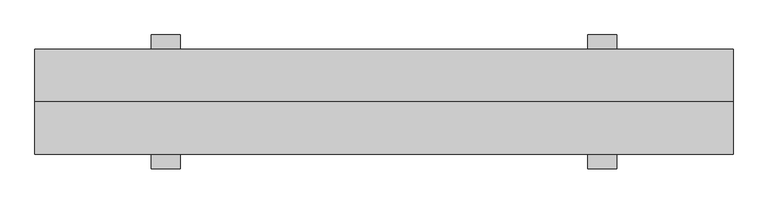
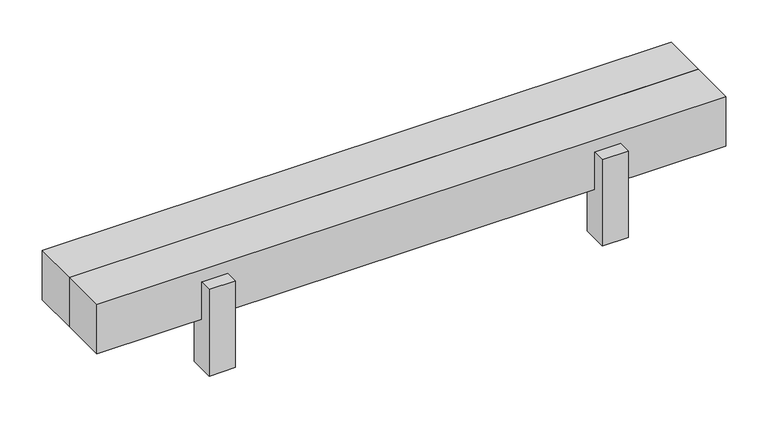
"""IFC4 building model written with IfcOpenShell, lengths in millimetres: proxy geometry, 枕木椅 : 枕木椅."""

from ifc_helpers import new_model, si_unit, frame, origin, origin_with_axes, place, context, project, spatial, polyline, outline, extrude, source, transform, mapped, element, save


def generic_models_32a9213d(model_context):
    return source(origin(), model_context, "Body", "SweptSolid", [
        extrude(outline(polyline([(-706.6315044, 228.0568475), (-706.6315044, 128.0568475), (-806.6315044, 128.0568475), (-806.6315044, 228.0568475), (-706.6315044, 228.0568475)])), origin_with_axes(), (0.0, 0.0, 1.0), 350.0),
        extrude(outline(polyline([(-706.6315044, 488.0568475), (-806.6315044, 488.0568475), (-806.6315044, 588.0568475), (-706.6315044, 588.0568475), (-706.6315044, 488.0568475)])), origin_with_axes(), (0.0, 0.0, 1.0), 350.0),
        extrude(outline(polyline([(793.3684956, 488.0568475), (693.3684956, 488.0568475), (693.3684956, 588.0568475), (793.3684956, 588.0568475), (793.3684956, 488.0568475)])), origin_with_axes(), (0.0, 0.0, 1.0), 350.0),
        extrude(outline(polyline([(793.3684956, 228.0568475), (793.3684956, 128.0568475), (693.3684956, 128.0568475), (693.3684956, 228.0568475), (793.3684956, 228.0568475)])), origin_with_axes(), (0.0, 0.0, 1.0), 350.0),
        extrude(outline(polyline([(1193.3684956, 358.0568475), (1193.3684956, 178.0568475), (-1206.6315044, 178.0568475), (-1206.6315044, 358.0568475), (1193.3684956, 358.0568475)])), frame((0.0, 0.0, 200.0), z_axis=(0.0, 0.0, 1.0), x_axis=(1.0, 0.0, 0.0)), (0.0, 0.0, 1.0), 200.0),
        extrude(outline(polyline([(1193.3684956, 538.0568475), (1193.3684956, 358.0568475), (-1206.6315044, 358.0568475), (-1206.6315044, 538.0568475), (1193.3684956, 538.0568475)])), frame((0.0, 0.0, 200.0), z_axis=(0.0, 0.0, 1.0), x_axis=(1.0, 0.0, 0.0)), (0.0, 0.0, 1.0), 200.0),
    ])


if __name__ == "__main__":
    model = new_model("IFC4")
    model_context = context("Model", 3, world=origin())
    ifc_project = project(units=[si_unit("LENGTHUNIT", "METRE", prefix="MILLI")], contexts=[model_context])
    site = spatial("IfcSite", under=ifc_project)
    building = spatial("IfcBuilding", under=site)
    placement = place(None, origin())
    generic_models_shape = generic_models_32a9213d(model_context)
    element("IfcBuildingElementProxy", 1, Name="枕木椅 : 枕木椅", ObjectType="枕木椅 : 枕木椅", at=placement, inside=building, context=model_context, shape_type="MappedRepresentation", body=[
        mapped(generic_models_shape, transform((0.0, 0.0, 0.0), x_axis=(1.0, 0.0, 0.0), y_axis=(0.0, 1.0, 0.0), z_axis=(0.0, 0.0, 1.0))),
    ])
    save(model, "model.ifc")
